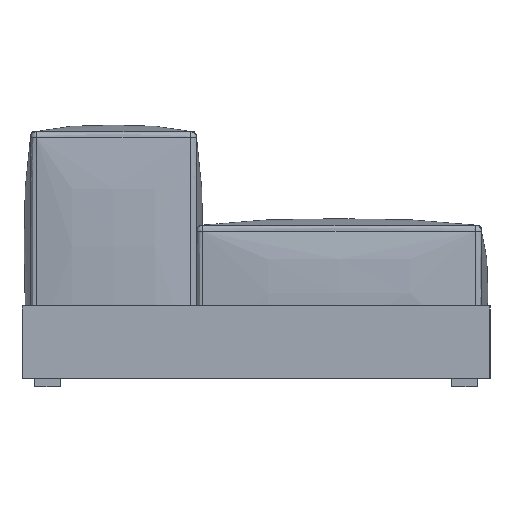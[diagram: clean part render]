
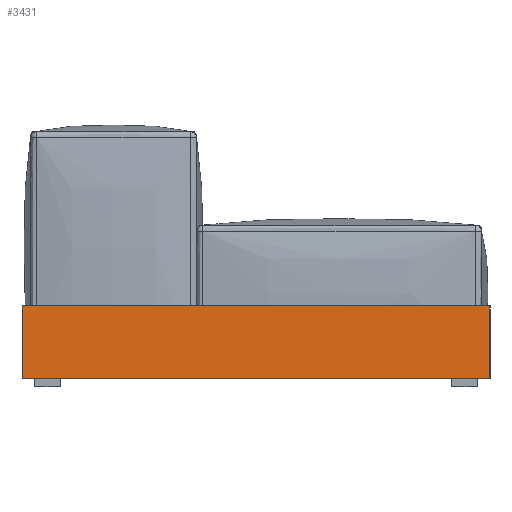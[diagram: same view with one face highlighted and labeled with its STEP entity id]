
A CAD part, left-side view. The second image highlights one B-rep face of the part: STEP entity #3431.
In plain terms, the highlighted planar face has unit normal (-1, 0, 0).
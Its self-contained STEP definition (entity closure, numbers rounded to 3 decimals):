
#122=PLANE('',#3847);
#260=LINE('',#14310,#482);
#261=LINE('',#14312,#483);
#262=LINE('',#14314,#484);
#263=LINE('',#14315,#485);
#482=VECTOR('',#4479,10.);
#483=VECTOR('',#4480,10.);
#484=VECTOR('',#4481,10.);
#485=VECTOR('',#4482,10.);
#1023=FACE_OUTER_BOUND('',#1275,.T.);
#1275=EDGE_LOOP('',(#2879,#2880,#2881,#2882));
#1663=VERTEX_POINT('',#14308);
#1664=VERTEX_POINT('',#14309);
#1665=VERTEX_POINT('',#14311);
#1666=VERTEX_POINT('',#14313);
#2087=EDGE_CURVE('',#1663,#1664,#260,.T.);
#2088=EDGE_CURVE('',#1663,#1665,#261,.T.);
#2089=EDGE_CURVE('',#1666,#1665,#262,.T.);
#2090=EDGE_CURVE('',#1664,#1666,#263,.T.);
#2879=ORIENTED_EDGE('',*,*,#2087,.F.);
#2880=ORIENTED_EDGE('',*,*,#2088,.T.);
#2881=ORIENTED_EDGE('',*,*,#2089,.F.);
#2882=ORIENTED_EDGE('',*,*,#2090,.F.);
#3431=ADVANCED_FACE('',(#1023),#122,.T.);
#3847=AXIS2_PLACEMENT_3D('',#14307,#4477,#4478);
#4477=DIRECTION('center_axis',(-1.,0.,0.));
#4478=DIRECTION('ref_axis',(0.,-1.,0.));
#4479=DIRECTION('',(0.,1.,0.));
#4480=DIRECTION('',(0.,0.,1.));
#4481=DIRECTION('',(0.,-1.,0.));
#4482=DIRECTION('',(0.,0.,1.));
#14307=CARTESIAN_POINT('Origin',(-1200.,550.,0.));
#14308=CARTESIAN_POINT('',(-1200.,-550.,0.));
#14309=CARTESIAN_POINT('',(-1200.,550.,0.));
#14310=CARTESIAN_POINT('',(-1200.,-550.,0.));
#14311=CARTESIAN_POINT('',(-1200.,-550.,170.));
#14312=CARTESIAN_POINT('',(-1200.,-550.,0.));
#14313=CARTESIAN_POINT('',(-1200.,550.,170.));
#14314=CARTESIAN_POINT('',(-1200.,-550.,170.));
#14315=CARTESIAN_POINT('',(-1200.,550.,0.));
